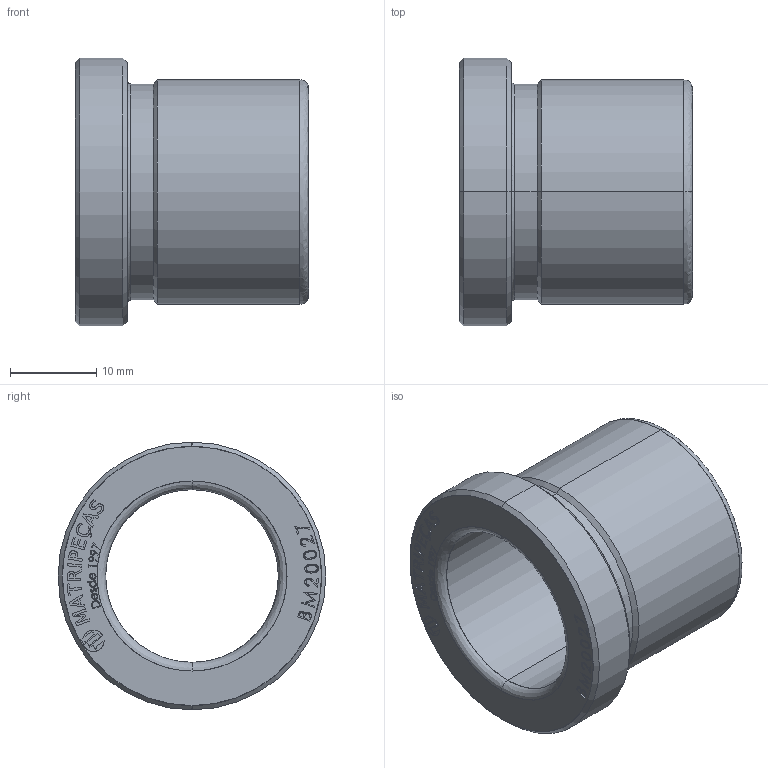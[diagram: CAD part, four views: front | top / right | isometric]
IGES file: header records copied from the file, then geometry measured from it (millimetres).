
Start section: SolidWorks IGES file using analytic representation for surfaces
Global section: file name: C:\Users\evers\OneDrive\Área de Trabalho\Trivector\MATRIPEÇAS\BM - BUCHA PRINCIPAL TIPO E31\BM20027.IGS; native system: SolidWorks 2024; preprocessor: SolidWorks 2024; author: evers; date: 260828.142222; units: millimetre
Bounding box: 27 x 31 x 31 mm (x, y, z)
Surface area: 4782.9 mm2 (no closed solid volume)
Topology: 0 solids, 0 shells, 397 faces, 4205 edges, 4205 vertices
Faces by surface type: bspline 370, revolution 27
